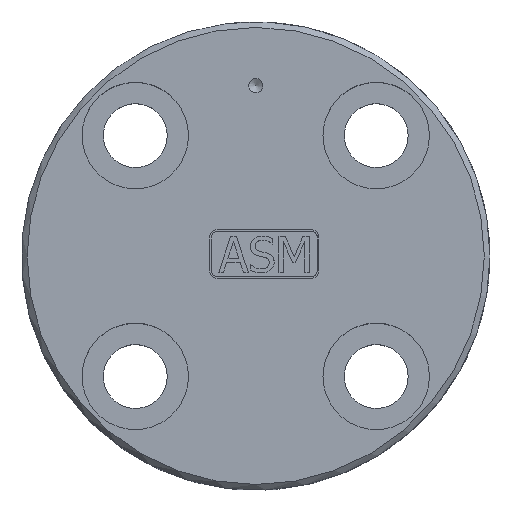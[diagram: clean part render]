
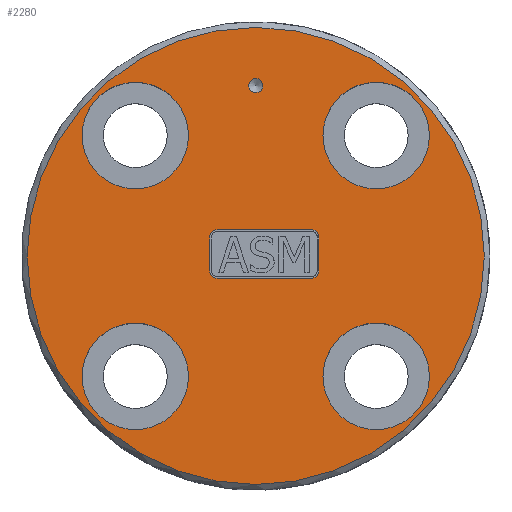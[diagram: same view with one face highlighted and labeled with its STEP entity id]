
A CAD part, top view. The second image highlights one B-rep face of the part: STEP entity #2280.
In plain terms, the highlighted planar face has unit normal (0, 0, 1).
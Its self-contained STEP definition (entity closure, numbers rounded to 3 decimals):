
#1507=CARTESIAN_POINT('',(7.859,3.7,14.));
#1508=VERTEX_POINT('',#1507);
#1515=CARTESIAN_POINT('',(-5.444,3.7,14.));
#1516=VERTEX_POINT('',#1515);
#1517=CARTESIAN_POINT('',(-5.444,3.7,14.));
#1518=DIRECTION('',(1.0,0.0,0.0));
#1519=VECTOR('',#1518,13.303);
#1520=LINE('',#1517,#1519);
#1521=EDGE_CURVE('',#1516,#1508,#1520,.T.);
#1547=CARTESIAN_POINT('',(-6.465,2.679,14.));
#1548=VERTEX_POINT('',#1547);
#1549=CARTESIAN_POINT('',(-5.444,2.679,14.));
#1550=DIRECTION('',(0.0,0.0,-1.0));
#1551=DIRECTION('',(0.,-1.0,0.0));
#1552=AXIS2_PLACEMENT_3D('',#1549,#1550,#1551);
#1553=CIRCLE('',#1552,1.021);
#1554=EDGE_CURVE('',#1548,#1516,#1553,.T.);
#1579=CARTESIAN_POINT('',(-6.465,-2.102,14.));
#1580=VERTEX_POINT('',#1579);
#1581=CARTESIAN_POINT('',(-6.465,-2.102,14.));
#1582=DIRECTION('',(0.0,1.0,0.0));
#1583=VECTOR('',#1582,4.781);
#1584=LINE('',#1581,#1583);
#1585=EDGE_CURVE('',#1580,#1548,#1584,.T.);
#1611=CARTESIAN_POINT('',(-5.444,-3.123,14.));
#1612=VERTEX_POINT('',#1611);
#1613=CARTESIAN_POINT('',(-5.444,-2.102,14.));
#1614=DIRECTION('',(0.0,0.0,-1.0));
#1615=DIRECTION('',(1.0,0.,0.0));
#1616=AXIS2_PLACEMENT_3D('',#1613,#1614,#1615);
#1617=CIRCLE('',#1616,1.021);
#1618=EDGE_CURVE('',#1612,#1580,#1617,.T.);
#1643=CARTESIAN_POINT('',(7.859,-3.123,14.));
#1644=VERTEX_POINT('',#1643);
#1645=CARTESIAN_POINT('',(7.859,-3.123,14.));
#1646=DIRECTION('',(-1.0,0.0,0.0));
#1647=VECTOR('',#1646,13.303);
#1648=LINE('',#1645,#1647);
#1649=EDGE_CURVE('',#1644,#1612,#1648,.T.);
#1675=CARTESIAN_POINT('',(8.88,-2.102,14.));
#1676=VERTEX_POINT('',#1675);
#1677=CARTESIAN_POINT('',(7.859,-2.102,14.));
#1678=DIRECTION('',(0.0,0.0,-1.0));
#1679=DIRECTION('',(0.,1.0,0.0));
#1680=AXIS2_PLACEMENT_3D('',#1677,#1678,#1679);
#1681=CIRCLE('',#1680,1.021);
#1682=EDGE_CURVE('',#1676,#1644,#1681,.T.);
#1707=CARTESIAN_POINT('',(8.88,2.679,14.));
#1708=VERTEX_POINT('',#1707);
#1709=CARTESIAN_POINT('',(8.88,2.679,14.));
#1710=DIRECTION('',(0.0,-1.0,0.0));
#1711=VECTOR('',#1710,4.781);
#1712=LINE('',#1709,#1711);
#1713=EDGE_CURVE('',#1708,#1676,#1712,.T.);
#1737=CARTESIAN_POINT('',(7.859,2.679,14.));
#1738=DIRECTION('',(0.0,0.0,-1.0));
#1739=DIRECTION('',(-1.0,0.,0.0));
#1740=AXIS2_PLACEMENT_3D('',#1737,#1738,#1739);
#1741=CIRCLE('',#1740,1.021);
#1742=EDGE_CURVE('',#1508,#1708,#1741,.T.);
#2199=CARTESIAN_POINT('',(0.0,0.0,14.));
#2200=DIRECTION('',(0.0,0.0,-1.0));
#2201=DIRECTION('',(-1.0,0.0,0.0));
#2202=AXIS2_PLACEMENT_3D('',#2199,#2200,#2201);
#2203=PLANE('',#2202);
#2204=CARTESIAN_POINT('',(32.2,0.,14.));
#2205=VERTEX_POINT('',#2204);
#2206=CARTESIAN_POINT('',(0.0,0.0,14.));
#2207=DIRECTION('',(0.0,0.0,-1.0));
#2208=DIRECTION('',(-1.0,0.0,0.0));
#2209=AXIS2_PLACEMENT_3D('',#2206,#2207,#2208);
#2210=CIRCLE('',#2209,32.2);
#2211=EDGE_CURVE('',#2205,#2205,#2210,.T.);
#2212=ORIENTED_EDGE('',*,*,#2211,.F.);
#2213=EDGE_LOOP('',(#2212));
#2214=FACE_OUTER_BOUND('',#2213,.T.);
#2215=CARTESIAN_POINT('',(24.471,16.971,14.));
#2216=VERTEX_POINT('',#2215);
#2217=CARTESIAN_POINT('',(16.971,16.971,14.));
#2218=DIRECTION('',(0.0,0.0,-1.0));
#2219=DIRECTION('',(1.0,0.0,0.0));
#2220=AXIS2_PLACEMENT_3D('',#2217,#2218,#2219);
#2221=CIRCLE('',#2220,7.5);
#2222=EDGE_CURVE('',#2216,#2216,#2221,.T.);
#2223=ORIENTED_EDGE('',*,*,#2222,.T.);
#2224=EDGE_LOOP('',(#2223));
#2225=FACE_BOUND('',#2224,.T.);
#2226=CARTESIAN_POINT('',(-16.971,24.471,14.));
#2227=VERTEX_POINT('',#2226);
#2228=CARTESIAN_POINT('',(-16.971,16.971,14.));
#2229=DIRECTION('',(0.0,0.0,-1.0));
#2230=DIRECTION('',(0.0,1.0,0.0));
#2231=AXIS2_PLACEMENT_3D('',#2228,#2229,#2230);
#2232=CIRCLE('',#2231,7.5);
#2233=EDGE_CURVE('',#2227,#2227,#2232,.T.);
#2234=ORIENTED_EDGE('',*,*,#2233,.T.);
#2235=EDGE_LOOP('',(#2234));
#2236=FACE_BOUND('',#2235,.T.);
#2237=CARTESIAN_POINT('',(-24.471,-16.971,14.));
#2238=VERTEX_POINT('',#2237);
#2239=CARTESIAN_POINT('',(-16.971,-16.971,14.));
#2240=DIRECTION('',(0.0,0.0,-1.0));
#2241=DIRECTION('',(-1.0,0.0,0.0));
#2242=AXIS2_PLACEMENT_3D('',#2239,#2240,#2241);
#2243=CIRCLE('',#2242,7.5);
#2244=EDGE_CURVE('',#2238,#2238,#2243,.T.);
#2245=ORIENTED_EDGE('',*,*,#2244,.T.);
#2246=EDGE_LOOP('',(#2245));
#2247=FACE_BOUND('',#2246,.T.);
#2248=CARTESIAN_POINT('',(16.971,-24.471,14.));
#2249=VERTEX_POINT('',#2248);
#2250=CARTESIAN_POINT('',(16.971,-16.971,14.));
#2251=DIRECTION('',(0.0,0.0,-1.0));
#2252=DIRECTION('',(0.0,-1.0,0.0));
#2253=AXIS2_PLACEMENT_3D('',#2250,#2251,#2252);
#2254=CIRCLE('',#2253,7.5);
#2255=EDGE_CURVE('',#2249,#2249,#2254,.T.);
#2256=ORIENTED_EDGE('',*,*,#2255,.T.);
#2257=EDGE_LOOP('',(#2256));
#2258=FACE_BOUND('',#2257,.T.);
#2259=CARTESIAN_POINT('',(1.0,24.,14.));
#2260=VERTEX_POINT('',#2259);
#2261=CARTESIAN_POINT('',(0.0,24.,14.));
#2262=DIRECTION('',(0.0,0.0,-1.0));
#2263=DIRECTION('',(1.0,0.0,0.0));
#2264=AXIS2_PLACEMENT_3D('',#2261,#2262,#2263);
#2265=CIRCLE('',#2264,1.0);
#2266=EDGE_CURVE('',#2260,#2260,#2265,.T.);
#2267=ORIENTED_EDGE('',*,*,#2266,.T.);
#2268=EDGE_LOOP('',(#2267));
#2269=FACE_BOUND('',#2268,.T.);
#2270=ORIENTED_EDGE('',*,*,#1521,.T.);
#2271=ORIENTED_EDGE('',*,*,#1742,.T.);
#2272=ORIENTED_EDGE('',*,*,#1713,.T.);
#2273=ORIENTED_EDGE('',*,*,#1682,.T.);
#2274=ORIENTED_EDGE('',*,*,#1649,.T.);
#2275=ORIENTED_EDGE('',*,*,#1618,.T.);
#2276=ORIENTED_EDGE('',*,*,#1585,.T.);
#2277=ORIENTED_EDGE('',*,*,#1554,.T.);
#2278=EDGE_LOOP('',(#2270,#2271,#2272,#2273,#2274,#2275,#2276,#2277));
#2279=FACE_BOUND('',#2278,.T.);
#2280=ADVANCED_FACE('',(#2214,#2225,#2236,#2247,#2258,#2269,#2279),#2203,.F.);
